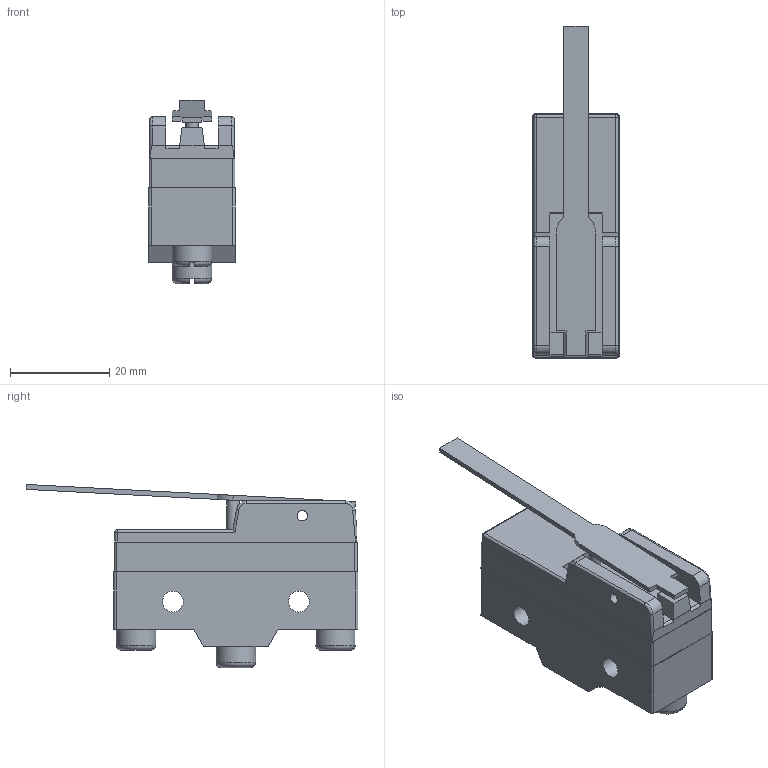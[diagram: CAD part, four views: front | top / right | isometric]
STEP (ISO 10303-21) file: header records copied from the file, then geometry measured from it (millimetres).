
FILE_DESCRIPTION(/* description */ (''),/* implementation_level */ '2;1');
FILE_NAME(/* name */ 'E:\Inventor 2016\제품 외형도\(\X2\C644B8CC\X0\) 리미트 스위치\직류용 마이크로 스위치 (Z형)\YSl2110GW-B.stp',/* time_stamp */ '2019-04-09T10:04:59+09:00',/* author */ ('Kim'),/* organization */ (''),/* preprocessor_version */ 'ST-DEVELOPER v16.1',/* originating_system */ 'Autodesk Inventor 2016',/* authorisation */ '');
FILE_SCHEMA (('AUTOMOTIVE_DESIGN { 1 0 10303 214 3 1 1 }'));
Length unit declared in the file: millimetre
Products named in the file (1): YSl2110GW-B
Bounding box: 17.5 x 66.88 x 36.92 mm (x, y, z)
Volume: 19147.2 mm3; surface area: 7073.1 mm2
Topology: 1 solids, 1 shells, 138 faces, 360 edges, 231 vertices
Faces by surface type: plane 88, cylinder 38, torus 10, sphere 2
Full cylindrical faces by diameter (mm): 2.1 x2, 2.5 x1, 4.2 x2, 8 x3
Entity records: 4320 total; most frequent: CARTESIAN_POINT 822, DIRECTION 709, ORIENTED_EDGE 696, EDGE_CURVE 348, LINE 241, VECTOR 241, AXIS2_PLACEMENT_3D 234, VERTEX_POINT 227
